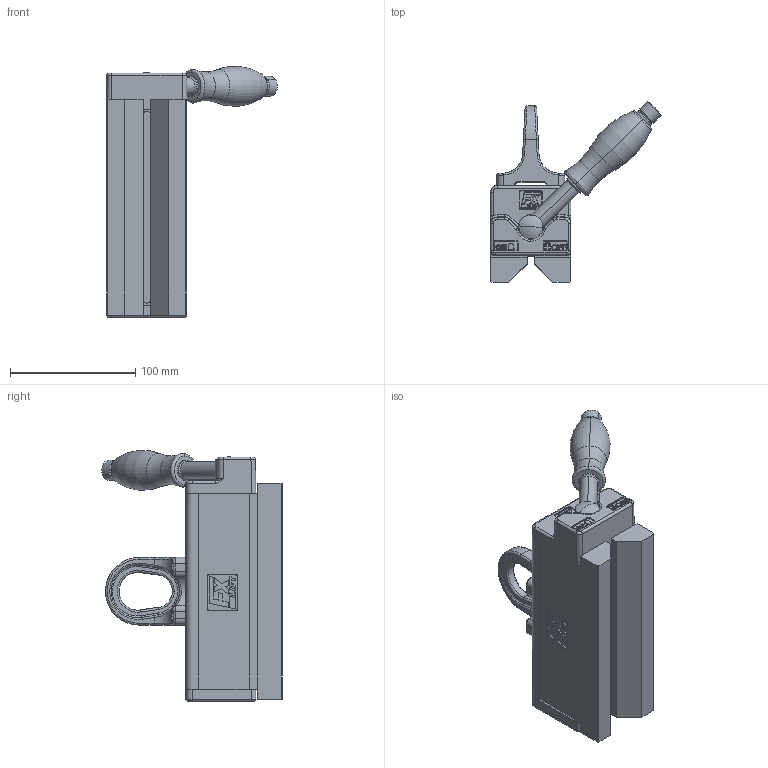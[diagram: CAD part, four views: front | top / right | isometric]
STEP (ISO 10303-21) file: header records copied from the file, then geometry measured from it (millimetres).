
FILE_DESCRIPTION (( 'STEP AP203' ), '1' );
FILE_NAME ('FX-V 200-Vertrieb.STEP', '2016-09-22T06:33:42', ( '' ), ( '' ), 'SwSTEP 2.0', 'SolidWorks 2013', '' );
FILE_SCHEMA (( 'CONFIG_CONTROL_DESIGN' ));
Products named in the file (1): FX-V 200-Vertrieb
Bounding box: 136.1 x 144.05 x 200.35 mm (x, y, z)
Volume: 894680.3 mm3; surface area: 98627.8 mm2
Topology: 1 solids, 1 shells, 1182 faces, 2850 edges, 1707 vertices
Faces by surface type: plane 423, bspline 352, cylinder 347, cone 38, torus 20, sphere 2
Entity records: 47473 total; most frequent: CARTESIAN_POINT 22688, ORIENTED_EDGE 5660, DIRECTION 4356, EDGE_CURVE 2830, VERTEX_POINT 1707, AXIS2_PLACEMENT_3D 1456, VECTOR 1444, LINE 1444
